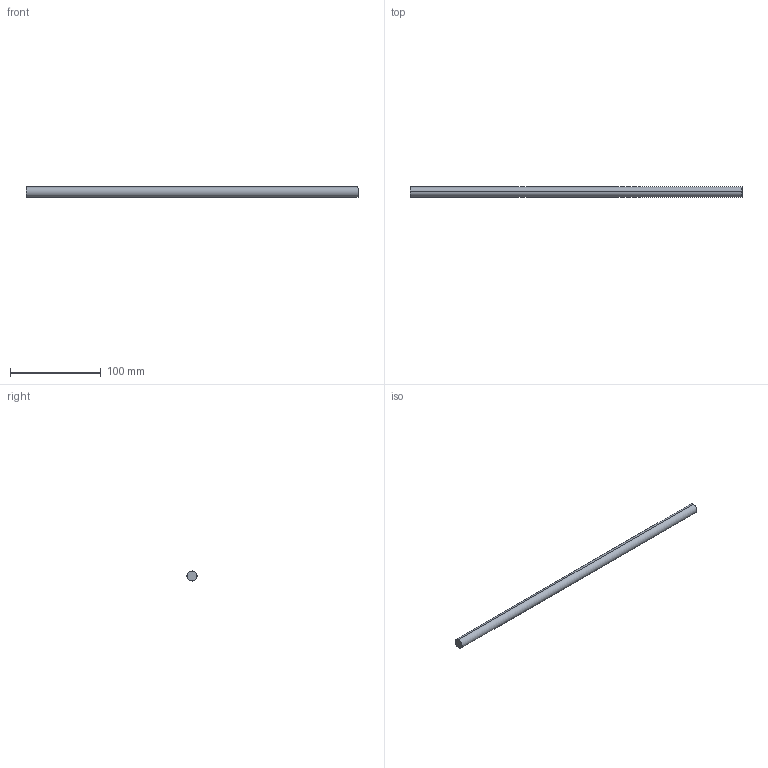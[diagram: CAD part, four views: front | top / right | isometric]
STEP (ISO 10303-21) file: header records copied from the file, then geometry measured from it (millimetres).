
FILE_DESCRIPTION (( 'STEP AP214' ), '1' );
FILE_NAME ('Querreling_Frontblende_Innenlade_KS-16_KAB-450.step', '2010-09-22T15:05:27', ( 'grass' ), ( '' ), 'SwSTEP 2.0', 'SolidWorks 2010', '' );
FILE_SCHEMA (( 'AUTOMOTIVE_DESIGN' ));
Length unit declared in the file: millimetre
Products named in the file (1): Querreling_Frontblende_Innenlade_KS-16_KAB-450
Bounding box: 365 x 11 x 11 mm (x, y, z)
Volume: 34687.1 mm3; surface area: 12803.6 mm2
Topology: 1 solids, 1 shells, 4 faces, 6 edges, 4 vertices
Faces by surface type: cylinder 2, plane 2
Entity records: 128 total; most frequent: DIRECTION 20, CARTESIAN_POINT 15, ORIENTED_EDGE 12, AXIS2_PLACEMENT_3D 9, EDGE_CURVE 6, CIRCLE 4, FACE_OUTER_BOUND 4, EDGE_LOOP 4
